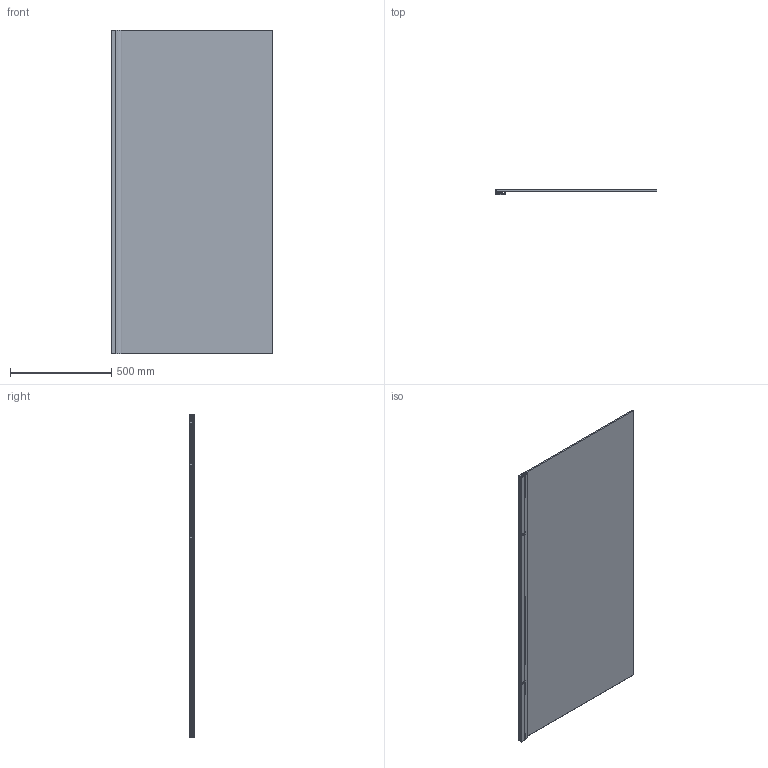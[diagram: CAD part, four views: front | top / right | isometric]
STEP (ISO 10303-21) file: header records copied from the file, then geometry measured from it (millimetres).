
FILE_DESCRIPTION(/* description */ ('Стенка передняя'),/* implementation_level */ '2;1');
FILE_NAME(/* name */ 'C:\Users\GWPC-133\Desktop\3DDDD\LUX PEARL GV-601ASQ 3D левая.stp',/* time_stamp */ '2022-09-14T18:39:11+03:00',/* author */ ('GWPC-133'),/* organization */ (''),/* preprocessor_version */ 'ST-DEVELOPER v15.2',/* originating_system */ 'Autodesk Inventor 2014',/* authorisation */ '');
FILE_SCHEMA (('AUTOMOTIVE_DESIGN { 1 0 10303 214 3 1 1 }'));
Length unit declared in the file: millimetre
Products named in the file (10): Стекло.02 (P) PEARL TR; UP008K.01; PR-12-002; PR-12-003; PR-12-004; BUSH-12-PR003; ISO 7380 - M6 x 10; ISO 10642 - M6 x  10; PL-12-PR003; TREND PEARL GV-861AP ЛЕВАЯ (\X2\043C
043E04340435043B044C\X0\)
Bounding box: 800 x 24.8 x 1601 mm (x, y, z)
Volume: 11161483.4 mm3; surface area: 3285368.6 mm2
Topology: 13 solids, 13 shells, 243 faces, 647 edges, 420 vertices
Faces by surface type: plane 159, cylinder 52, cone 28, torus 4
Full cylindrical faces by diameter (mm): 4.917 x4, 6 x4, 8 x2, 8.1 x2, 10 x2, 10.1 x2, 10.5 x2, 11.34 x2
Entity records: 6356 total; most frequent: CARTESIAN_POINT 1110, DIRECTION 1047, ORIENTED_EDGE 1010, EDGE_CURVE 505, LINE 361, VECTOR 361, VERTEX_POINT 346, AXIS2_PLACEMENT_3D 343
